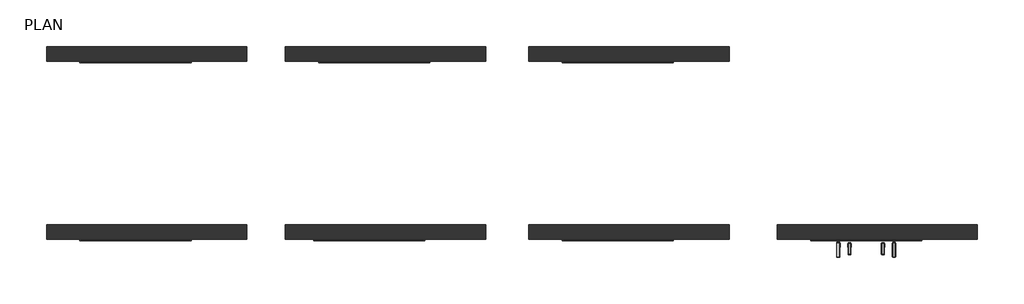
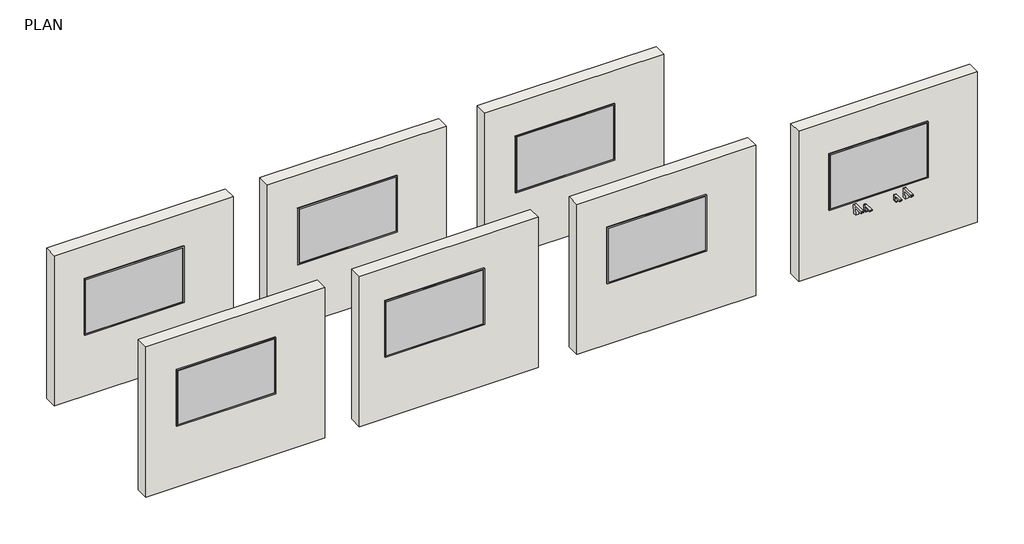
# One storey, incomplete: 9 proxies, 7 walls, 2 flow terminals.
"""IFC4 building model written with IfcOpenShell, lengths in millimetres."""

from ifc_helpers import new_model, si_unit, origin, origin_with_axes, place, context, project, spatial, polyline, outline, extrude, transform, mapped, element, save
from components import specialty_equipment_7b20ac78, specialty_equipment_ecad7e4f, flow_terminal_4b3c92f4

model = new_model("IFC4")

# Units and contexts
model_context = context("Model", 3, world=origin())
ifc_project = project(units=[si_unit("LENGTHUNIT", "METRE", prefix="MILLI")], contexts=[model_context])

# Site, building, storey
site = spatial("IfcSite", under=ifc_project)
building = spatial("IfcBuilding", under=site)
storey = spatial("IfcBuildingStorey", under=building, Name="PLAN", Elevation=0.0)

# Proxies
placement = place(None, origin())
specialty_equipment_shape = specialty_equipment_7b20ac78(model_context)
element("IfcBuildingElementProxy", 1, Name="Soap_Dispenser-Bradley_Corp-Deck_Mounted-Verge_Zen_6-3700 : Verge Zen Series 6-3700", ObjectType="Soap_Dispenser-Bradley_Corp-Deck_Mounted-Verge_Zen_6-3700 : Verge Zen Series 6-3700", at=placement, inside=storey, context=model_context, shape_type="MappedRepresentation", body=[
    mapped(specialty_equipment_shape, transform((-2596.9676721, 1101.3950523, 850.9), x_axis=(1.0, 0.0, 0.0), y_axis=(0.0, 1.0, 0.0), z_axis=(0.0, 0.0, 1.0))),
])
element("IfcBuildingElementProxy", 2, Name="Soap_Dispenser-Bradley_Corp-Deck_Mounted-Verge_Zen_6-3700 : Verge Zen Series 6-3700", ObjectType="Soap_Dispenser-Bradley_Corp-Deck_Mounted-Verge_Zen_6-3700 : Verge Zen Series 6-3700", at=placement, inside=storey, context=model_context, shape_type="MappedRepresentation", body=[
    mapped(specialty_equipment_shape, transform((-2139.7676721, 1101.3950523, 850.9), x_axis=(1.0, 0.0, 0.0), y_axis=(0.0, 1.0, 0.0), z_axis=(0.0, 0.0, 1.0))),
])
specialty_equipment_2_shape = specialty_equipment_ecad7e4f(model_context)
element("IfcBuildingElementProxy", 3, Name="Bradley-Washroom_Accessories-Mirrors-780_Custom (3) : Bradley-Washroom_Accessories-Mirrors-780_Custom (3)", ObjectType="Bradley-Washroom_Accessories-Mirrors-780_Custom (3) : Bradley-Washroom_Accessories-Mirrors-780_Custom (3)", at=placement, inside=storey, context=model_context, shape_type="MappedRepresentation", body=[
    mapped(specialty_equipment_2_shape, transform((-12376.7087786, 3622.3450523, 1454.15), x_axis=(1.0, 0.0, 0.0), y_axis=(0.0, 0.0, 1.0), z_axis=(0.0, -1.0, 0.0))),
])
element("IfcBuildingElementProxy", 4, Name="Bradley-Washroom_Accessories-Mirrors-780_Custom (3) : Bradley-Washroom_Accessories-Mirrors-780_Custom (3)", ObjectType="Bradley-Washroom_Accessories-Mirrors-780_Custom (3) : Bradley-Washroom_Accessories-Mirrors-780_Custom (3)", at=placement, inside=storey, context=model_context, shape_type="MappedRepresentation", body=[
    mapped(specialty_equipment_2_shape, transform((-9106.2798202, 3622.3450523, 1454.15), x_axis=(1.0, 0.0, 0.0), y_axis=(0.0, 0.0, 1.0), z_axis=(0.0, -1.0, 0.0))),
])
element("IfcBuildingElementProxy", 5, Name="Bradley-Washroom_Accessories-Mirrors-780_Custom (3) : Bradley-Washroom_Accessories-Mirrors-780_Custom (3)", ObjectType="Bradley-Washroom_Accessories-Mirrors-780_Custom (3) : Bradley-Washroom_Accessories-Mirrors-780_Custom (3)", at=placement, inside=storey, context=model_context, shape_type="MappedRepresentation", body=[
    mapped(specialty_equipment_2_shape, transform((-5770.1876805, 3622.3450523, 1454.15), x_axis=(1.0, 0.0, 0.0), y_axis=(0.0, 0.0, 1.0), z_axis=(0.0, -1.0, 0.0))),
])
element("IfcBuildingElementProxy", 6, Name="Bradley-Washroom_Accessories-Mirrors-780_Custom (3) : Bradley-Washroom_Accessories-Mirrors-780_Custom (3)", ObjectType="Bradley-Washroom_Accessories-Mirrors-780_Custom (3) : Bradley-Washroom_Accessories-Mirrors-780_Custom (3)", at=placement, inside=storey, context=model_context, shape_type="MappedRepresentation", body=[
    mapped(specialty_equipment_2_shape, transform((-12376.7087745, 1183.9450523, 1454.15), x_axis=(1.0, 0.0, 0.0), y_axis=(0.0, 0.0, 1.0), z_axis=(0.0, -1.0, 0.0))),
])
element("IfcBuildingElementProxy", 7, Name="Bradley-Washroom_Accessories-Mirrors-780_Custom (3) : Bradley-Washroom_Accessories-Mirrors-780_Custom (3)", ObjectType="Bradley-Washroom_Accessories-Mirrors-780_Custom (3) : Bradley-Washroom_Accessories-Mirrors-780_Custom (3)", at=placement, inside=storey, context=model_context, shape_type="MappedRepresentation", body=[
    mapped(specialty_equipment_2_shape, transform((-9176.1298161, 1183.9450523, 1454.15), x_axis=(1.0, 0.0, 0.0), y_axis=(0.0, 0.0, 1.0), z_axis=(0.0, -1.0, 0.0))),
])
element("IfcBuildingElementProxy", 8, Name="Bradley-Washroom_Accessories-Mirrors-780_Custom (3) : Bradley-Washroom_Accessories-Mirrors-780_Custom (3)", ObjectType="Bradley-Washroom_Accessories-Mirrors-780_Custom (3) : Bradley-Washroom_Accessories-Mirrors-780_Custom (3)", at=placement, inside=storey, context=model_context, shape_type="MappedRepresentation", body=[
    mapped(specialty_equipment_2_shape, transform((-5770.1876805, 1183.9450523, 1454.15), x_axis=(1.0, 0.0, 0.0), y_axis=(0.0, 0.0, 1.0), z_axis=(0.0, -1.0, 0.0))),
])
element("IfcBuildingElementProxy", 9, Name="Bradley-Washroom_Accessories-Mirrors-780_Custom (3) : Bradley-Washroom_Accessories-Mirrors-780_Custom (3)", ObjectType="Bradley-Washroom_Accessories-Mirrors-780_Custom (3) : Bradley-Washroom_Accessories-Mirrors-780_Custom (3)", at=placement, inside=storey, context=model_context, shape_type="MappedRepresentation", body=[
    mapped(specialty_equipment_2_shape, transform((-2368.3676721, 1183.9450523, 1454.15), x_axis=(1.0, 0.0, 0.0), y_axis=(0.0, 0.0, 1.0), z_axis=(0.0, -1.0, 0.0))),
])

# Flow terminals
flow_terminal_shape = flow_terminal_4b3c92f4(model_context)
element("IfcFlowTerminal", 10, ObjectType="Faucet-Bradley_Corp-Deck_Mounted-Verge_Zen_S53-3700 : Verge Zen Series S53-3700", at=placement, inside=storey, context=model_context, shape_type="MappedRepresentation", body=[
    mapped(flow_terminal_shape, transform((-2749.3676721, 1107.5323286, 850.9), x_axis=(1.0, 0.0, 0.0), y_axis=(0.0, 1.0, 0.0), z_axis=(0.0, 0.0, 1.0))),
])
element("IfcFlowTerminal", 11, ObjectType="Faucet-Bradley_Corp-Deck_Mounted-Verge_Zen_S53-3700 : Verge Zen Series S53-3700", at=placement, inside=storey, context=model_context, shape_type="MappedRepresentation", body=[
    mapped(flow_terminal_shape, transform((-1987.3676721, 1107.5323286, 850.9), x_axis=(1.0, 0.0, 0.0), y_axis=(0.0, 1.0, 0.0), z_axis=(0.0, 0.0, 1.0))),
])

# Walls
element("IfcWall", 12, ObjectType="Generic - 8\"", at=placement, inside=storey, context=model_context, shape_type="SweptSolid", body=[
    extrude(outline(polyline([(-10852.7087745, 3622.3450523), (-13595.9087745, 3622.3450523), (-13595.9087745, 3825.5450523), (-10852.7087745, 3825.5450523), (-10852.7087745, 3622.3450523)])), origin_with_axes(), (0.0, 0.0, 1.0), 2438.4),
])
element("IfcWall", 13, ObjectType="Generic - 8\"", at=placement, inside=storey, context=model_context, shape_type="SweptSolid", body=[
    extrude(outline(polyline([(-7582.2798161, 3622.3450523), (-10325.4798161, 3622.3450523), (-10325.4798161, 3825.5450523), (-7582.2798161, 3825.5450523), (-7582.2798161, 3622.3450523)])), origin_with_axes(), (0.0, 0.0, 1.0), 2438.4),
])
element("IfcWall", 14, ObjectType="Generic - 8\"", at=placement, inside=storey, context=model_context, shape_type="SweptSolid", body=[
    extrude(outline(polyline([(-4246.1876805, 3622.3450523), (-6989.3876805, 3622.3450523), (-6989.3876805, 3825.5450523), (-4246.1876805, 3825.5450523), (-4246.1876805, 3622.3450523)])), origin_with_axes(), (0.0, 0.0, 1.0), 2438.4),
])
element("IfcWall", 15, ObjectType="Generic - 8\"", at=placement, inside=storey, context=model_context, shape_type="SweptSolid", body=[
    extrude(outline(polyline([(-10852.7087745, 1183.9450523), (-13595.9087745, 1183.9450523), (-13595.9087745, 1387.1450523), (-10852.7087745, 1387.1450523), (-10852.7087745, 1183.9450523)])), origin_with_axes(), (0.0, 0.0, 1.0), 2438.4),
])
element("IfcWall", 16, ObjectType="Generic - 8\"", at=placement, inside=storey, context=model_context, shape_type="SweptSolid", body=[
    extrude(outline(polyline([(-7582.2798161, 1183.9450523), (-10325.4798161, 1183.9450523), (-10325.4798161, 1387.1450523), (-7582.2798161, 1387.1450523), (-7582.2798161, 1183.9450523)])), origin_with_axes(), (0.0, 0.0, 1.0), 2438.4),
])
element("IfcWall", 17, ObjectType="Generic - 8\"", at=placement, inside=storey, context=model_context, shape_type="SweptSolid", body=[
    extrude(outline(polyline([(-4246.1876805, 1183.9450523), (-6989.3876805, 1183.9450523), (-6989.3876805, 1387.1450523), (-4246.1876805, 1387.1450523), (-4246.1876805, 1183.9450523)])), origin_with_axes(), (0.0, 0.0, 1.0), 2438.4),
])
element("IfcWall", 18, ObjectType="Generic - 8\"", at=placement, inside=storey, context=model_context, shape_type="SweptSolid", body=[
    extrude(outline(polyline([(-844.3676721, 1183.9450523), (-3587.5676721, 1183.9450523), (-3587.5676721, 1387.1450523), (-844.3676721, 1387.1450523), (-844.3676721, 1183.9450523)])), origin_with_axes(), (0.0, 0.0, 1.0), 2438.4),
])

save(model, "model.ifc")
